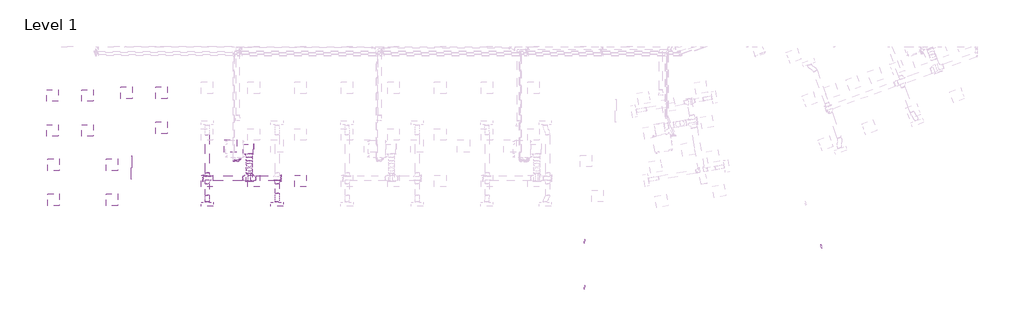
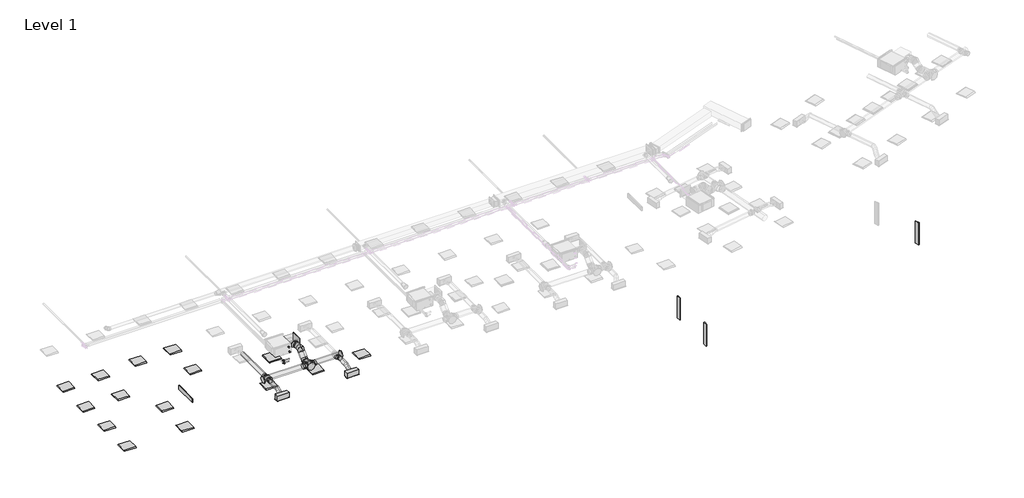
# One storey, part 1 of 30: 18 light fixtures, 12 duct fittings, 11 duct segments, 4 pipe fittings, 4 pipe segments, 3 air terminals.
"""IFC4 building model written with IfcOpenShell, lengths in millimetres."""

from ifc_helpers import new_model, si_unit, point, frame, frame_2d, origin, place, context, project, spatial, polyline, circle_curve, ellipse_curve, trimmed, segment, composite_curve, outline, extrude, transform, mapped, element, save
from ifc_brep_helpers import plane_surface, cylinder_surface, advanced_brep
from components import return_grille_rectangular_hosted_standard_7b12617c, supply_diffuser_with_plenum_linear_slot_hosted_8c379eed, dw144_rectangular_blank_end_standard_8fde7d16, dw144_round_blank_end_standard_f82b0856, dw144_round_blank_end_standard_9aa061e7, dw144_round_segmented_bend_slip_joint_standard_8b80c5ae, dw144_round_shoe_branch_slip_joint1_standard_2_15a2edd8, dw144_round_shoe_branch_slip_joint1_standard_2_559552f4, dw144_round_shoe_branch_slip_joint1_standard_2_7ba9e4ed, dw144_round_shoe_branch_slip_joint1_standard_2_67b64720, light_fixture_1c7c1157, light_fixture_b730b5ca, light_fixture_64c2163c, elbow_threaded_gmi_standard_b4aa7741, socket_reducing_threaded_gmi_standard_0a4076b8

model = new_model("IFC4")

# Units and contexts
model_context = context("Model", 3, world=origin())
ifc_project = project(units=[si_unit("LENGTHUNIT", "METRE", prefix="MILLI")], contexts=[model_context])

# Site, building, storey
site = spatial("IfcSite", under=ifc_project)
building = spatial("IfcBuilding", under=site)
storey = spatial("IfcBuildingStorey", under=building, Name="Level 1", Elevation=3900.0)

# Air terminals
placement = place(None, origin())
return_grille_rectangular_hosted_standard_shape = return_grille_rectangular_hosted_standard_7b12617c(model_context)
element("IfcAirTerminal", 1, ObjectType="Return Grille - Rectangular - Hosted : Standard", at=placement, inside=storey, context=model_context, shape_type="MappedRepresentation", body=[
    mapped(return_grille_rectangular_hosted_standard_shape, transform((10362.2000027, 3963.2000004, 6700.0), x_axis=(1.0, 0.0, 0.0), y_axis=(0.0, -1.0, 0.0), z_axis=(0.0, 0.0, -1.0))),
])
supply_diffuser_with_plenum_linear_slot_hosted_shape = supply_diffuser_with_plenum_linear_slot_hosted_8c379eed(model_context)
element("IfcAirTerminal", 2, ObjectType="Supply Diffuser with Plenum - Linear Slot - Hosted : 24\" x 8\"-200 In Inlet  4-Slot", at=placement, inside=storey, context=model_context, shape_type="MappedRepresentation", body=[
    mapped(supply_diffuser_with_plenum_linear_slot_hosted_shape, transform((9162.2000027, 963.2000004, 6700.0), x_axis=(1.0, 0.0, 0.0), y_axis=(0.0, -1.0, 0.0), z_axis=(0.0, 0.0, -1.0))),
])
element("IfcAirTerminal", 3, ObjectType="Supply Diffuser with Plenum - Linear Slot - Hosted : 24\" x 8\"-200 In Inlet  4-Slot", at=placement, inside=storey, context=model_context, shape_type="MappedRepresentation", body=[
    mapped(supply_diffuser_with_plenum_linear_slot_hosted_shape, transform((12762.2000027, 963.2000004, 6700.0), x_axis=(1.0, 0.0, 0.0), y_axis=(0.0, -1.0, 0.0), z_axis=(0.0, 0.0, -1.0))),
])

# Duct fittings
dw144_rectangular_blank_end_standard_shape = dw144_rectangular_blank_end_standard_8fde7d16(model_context)
element("IfcDuctFitting", 4, ObjectType="DW144 Rectangular Blank End : Standard", at=placement, inside=storey, context=model_context, shape_type="MappedRepresentation", body=[
    mapped(dw144_rectangular_blank_end_standard_shape, transform((11546.2561025, 3806.0000004, 7376.3911538), x_axis=(1.0, 0.0, 0.0), y_axis=(0.0, 1.0, 0.0), z_axis=(0.0, 0.0, 1.0))),
])
dw144_round_blank_end_standard_shape = dw144_round_blank_end_standard_f82b0856(model_context)
element("IfcDuctFitting", 5, ObjectType="DW144 Round Blank End : Standard", at=placement, inside=storey, context=model_context, shape_type="MappedRepresentation", body=[
    mapped(dw144_round_blank_end_standard_shape, transform((11331.4561025, 2142.9916128, 6972.2088531), x_axis=(0.0, -1.0, 0.0), y_axis=(1.0, 0.0, 0.0), z_axis=(0.0, 0.0, 1.0))),
])
dw144_round_blank_end_standard_2_shape = dw144_round_blank_end_standard_9aa061e7(model_context)
element("IfcDuctFitting", 6, ObjectType="DW144 Round Blank End : Standard", at=placement, inside=storey, context=model_context, shape_type="MappedRepresentation", body=[
    mapped(dw144_round_blank_end_standard_2_shape, transform((12961.4561025, 2306.5018192, 6972.2088531), x_axis=(1.0, 0.0, 0.0), y_axis=(0.0, 1.0, 0.0), z_axis=(0.0, 0.0, 1.0))),
])
element("IfcDuctFitting", 7, ObjectType="DW144 Round Blank End : Standard", at=placement, inside=storey, context=model_context, shape_type="MappedRepresentation", body=[
    mapped(dw144_round_blank_end_standard_2_shape, transform((8961.4561025, 2306.5018192, 6972.2088531), x_axis=(-1.0, 0.0, 0.0), y_axis=(0.0, -1.0, 0.0), z_axis=(0.0, 0.0, 1.0))),
])
dw144_round_segmented_bend_slip_joint_standard_shape = dw144_round_segmented_bend_slip_joint_standard_8b80c5ae(model_context)
element("IfcDuctFitting", 8, ObjectType="DW144 Round Segmented Bend - Slip Joint : Standard", at=placement, inside=storey, context=model_context, shape_type="MappedRepresentation", body=[
    mapped(dw144_round_segmented_bend_slip_joint_standard_shape, transform((11331.4561025, 2678.6338536, 6972.2088531), x_axis=(0.0, -0.7071067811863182, -0.7071067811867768), y_axis=(0.0, 0.7071067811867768, -0.7071067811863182), z_axis=(1.0, 0.0, 0.0))),
])
element("IfcDuctFitting", 9, ObjectType="DW144 Round Segmented Bend - Slip Joint : Standard", at=placement, inside=storey, context=model_context, shape_type="MappedRepresentation", body=[
    mapped(dw144_round_segmented_bend_slip_joint_standard_shape, transform((11331.4561025, 3076.0000004, 7369.575), x_axis=(0.0, -1.0, 0.0), y_axis=(0.0, 0.0, 1.0), z_axis=(-1.0, 0.0, 0.0))),
])
dw144_round_shoe_branch_slip_joint1_standard_2_shape = dw144_round_shoe_branch_slip_joint1_standard_2_15a2edd8(model_context)
element("IfcDuctFitting", 10, ObjectType="DW144 Round Shoe Branch - Slip Joint1 : Standard 2", at=placement, inside=storey, context=model_context, shape_type="MappedRepresentation", body=[
    mapped(dw144_round_shoe_branch_slip_joint1_standard_2_shape, transform((9173.9000022, 2181.5018192, 6972.2088531), x_axis=(0.0, -1.0, 0.0), y_axis=(-1.0, 0.0, 0.0), z_axis=(0.0, 0.0, -1.0))),
])
element("IfcDuctFitting", 11, ObjectType="DW144 Round Shoe Branch - Slip Joint1 : Standard 2", at=placement, inside=storey, context=model_context, shape_type="MappedRepresentation", body=[
    mapped(dw144_round_shoe_branch_slip_joint1_standard_2_shape, transform((9173.9000022, 2431.5018192, 6972.2088531), x_axis=(0.0, 1.0, 0.0), y_axis=(-1.0, 0.0, 0.0), z_axis=(0.0, 0.0, 1.0))),
])
dw144_round_shoe_branch_slip_joint1_standard_2_2_shape = dw144_round_shoe_branch_slip_joint1_standard_2_559552f4(model_context)
element("IfcDuctFitting", 12, ObjectType="DW144 Round Shoe Branch - Slip Joint1 : Standard 2", at=placement, inside=storey, context=model_context, shape_type="MappedRepresentation", body=[
    mapped(dw144_round_shoe_branch_slip_joint1_standard_2_2_shape, transform((12773.9000022, 2181.5018192, 6972.2088531), x_axis=(0.0, -1.0, 0.0), y_axis=(-1.0, 0.0, 0.0), z_axis=(0.0, 0.0, -1.0))),
])
dw144_round_shoe_branch_slip_joint1_standard_2_3_shape = dw144_round_shoe_branch_slip_joint1_standard_2_7ba9e4ed(model_context)
element("IfcDuctFitting", 13, ObjectType="DW144 Round Shoe Branch - Slip Joint1 : Standard 2", at=placement, inside=storey, context=model_context, shape_type="MappedRepresentation", body=[
    mapped(dw144_round_shoe_branch_slip_joint1_standard_2_3_shape, transform((11331.4561025, 3556.0000004, 7369.575), x_axis=(0.0, -1.0, 0.0), y_axis=(-1.0, 0.0, 0.0), z_axis=(0.0, 0.0, -1.0))),
])
dw144_round_shoe_branch_slip_joint1_standard_2_4_shape = dw144_round_shoe_branch_slip_joint1_standard_2_67b64720(model_context)
element("IfcDuctFitting", 14, ObjectType="DW144 Round Shoe Branch - Slip Joint1 : Standard 2", at=placement, inside=storey, context=model_context, shape_type="MappedRepresentation", body=[
    mapped(dw144_round_shoe_branch_slip_joint1_standard_2_4_shape, transform((11481.4561025, 2306.5018192, 6972.2088531), x_axis=(1.0, 0.0, 0.0), y_axis=(0.0, -1.0, 0.0), z_axis=(0.0, 0.0, -1.0))),
])
element("IfcDuctFitting", 15, ObjectType="DW144 Round Shoe Branch - Slip Joint1 : Standard 2", at=placement, inside=storey, context=model_context, shape_type="MappedRepresentation", body=[
    mapped(dw144_round_shoe_branch_slip_joint1_standard_2_4_shape, transform((11181.4561025, 2306.5018192, 6972.2088531), x_axis=(-1.0, 0.0, 0.0), y_axis=(0.0, -1.0, 0.0), z_axis=(0.0, 0.0, 1.0))),
])

# Duct segments
element("IfcDuctSegment", 16, ObjectType="DW144 Flanged Med Radius Bend / Shoe Branch", at=placement, inside=storey, context=model_context, shape_type="SweptSolid", body=[
    extrude(outline(polyline([(11026.6561025, 3556.0000004), (11026.6561025, 4056.0000004), (11546.2561025, 4056.0000004), (11546.2561025, 3556.0000004), (11026.6561025, 3556.0000004)])), frame((0.0, 0.0, 7201.3911538), z_axis=(0.0, 0.0, 1.0), x_axis=(1.0, 0.0, 0.0)), (0.0, 0.0, 1.0), 350.0),
])
element("IfcDuctSegment", 17, ObjectType="DW144 Segmented Bend / Shoe Branch", at=placement, inside=storey, context=model_context, shape_type="SweptSolid", body=[
    extrude(outline(composite_curve([segment(trimmed(circle_curve(frame_2d((7369.575, 11331.4561025)), 150.0), [point((7369.575, 11181.4561025))], [point((7219.575, 11331.4561025))], False, "CARTESIAN"), True, "CONTINUOUS"), segment(trimmed(circle_curve(frame_2d((7369.575, 11331.4561025)), 150.0), [point((7219.575, 11331.4561025))], [point((7369.575, 11481.4561025))], False, "CARTESIAN"), True, "CONTINUOUS"), segment(trimmed(circle_curve(frame_2d((7369.575, 11331.4561025)), 150.0), [point((7369.575, 11481.4561025))], [point((7519.575, 11331.4561025))], False, "CARTESIAN"), True, "CONTINUOUS"), segment(trimmed(circle_curve(frame_2d((7369.575, 11331.4561025)), 150.0), [point((7519.575, 11331.4561025))], [point((7369.575, 11181.4561025))], False, "CARTESIAN"), True, "CONTINUOUS")], self_intersect=False)), frame((0.0, 3200.2640691, 0.0), z_axis=(0.0, 1.0, 0.0), x_axis=(0.0, 0.0, 1.0)), (0.0, 0.0, 1.0), 180.7359313),
])
element("IfcDuctSegment", 18, ObjectType="DW144 Segmented Bend / Shoe Branch", at=placement, inside=storey, context=model_context, shape_type="SweptSolid", body=[
    extrude(outline(composite_curve([segment(trimmed(circle_curve(frame_2d((6972.2088531, 11331.4561025)), 150.0), [point((6972.2088531, 11181.4561025))], [point((6822.2088531, 11331.4561025))], False, "CARTESIAN"), True, "CONTINUOUS"), segment(trimmed(circle_curve(frame_2d((6972.2088531, 11331.4561025)), 150.0), [point((6822.2088531, 11331.4561025))], [point((6972.2088531, 11481.4561025))], False, "CARTESIAN"), True, "CONTINUOUS"), segment(trimmed(circle_curve(frame_2d((6972.2088531, 11331.4561025)), 150.0), [point((6972.2088531, 11481.4561025))], [point((7122.2088531, 11331.4561025))], False, "CARTESIAN"), True, "CONTINUOUS"), segment(trimmed(circle_curve(frame_2d((6972.2088531, 11331.4561025)), 150.0), [point((7122.2088531, 11331.4561025))], [point((6972.2088531, 11181.4561025))], False, "CARTESIAN"), True, "CONTINUOUS")], self_intersect=False)), frame((0.0, 2142.9916128, 0.0), z_axis=(0.0, 1.0, 0.0), x_axis=(0.0, 0.0, 1.0)), (0.0, 0.0, 1.0), 411.3781721),
])
element("IfcDuctSegment", 19, ObjectType="DW144 Segmented Bend / Shoe Branch", at=placement, inside=storey, context=model_context, shape_type="SweptSolid", body=[
    extrude(outline(composite_curve([segment(trimmed(circle_curve(frame_2d((0.0, -150.0)), 150.0), [point((-150.0, -150.0))], [point((0.0, 0.0))], False, "CARTESIAN"), True, "CONTINUOUS"), segment(trimmed(circle_curve(frame_2d((0.0, -150.0)), 150.0), [point((0.0, 0.0))], [point((150.0, -150.0))], False, "CARTESIAN"), True, "CONTINUOUS"), segment(trimmed(circle_curve(frame_2d((0.0, -150.0)), 150.0), [point((150.0, -150.0))], [point((0.0, -300.0))], False, "CARTESIAN"), True, "CONTINUOUS"), segment(trimmed(circle_curve(frame_2d((0.0, -150.0)), 150.0), [point((0.0, -300.0))], [point((-150.0, -150.0))], False, "CARTESIAN"), True, "CONTINUOUS")], self_intersect=False)), frame((11331.4561025, 2872.5678364, 6954.0108016), z_axis=(0.0, 0.7071067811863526, 0.7071067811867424), x_axis=(1.0, 0.0, 0.0)), (0.0, 0.0, 1.0), 313.4324567),
])
element("IfcDuctSegment", 20, ObjectType="DW144 Segmented Bend / Shoe Branch", at=placement, inside=storey, context=model_context, shape_type="SweptSolid", body=[
    extrude(outline(composite_curve([segment(trimmed(circle_curve(frame_2d((2306.5018192, 6972.2088531)), 125.0), [point((2181.5018192, 6972.2088531))], [point((2306.5018192, 7097.2088531))], False, "CARTESIAN"), True, "CONTINUOUS"), segment(trimmed(circle_curve(frame_2d((2306.5018192, 6972.2088531)), 125.0), [point((2306.5018192, 7097.2088531))], [point((2431.5018192, 6972.2088531))], False, "CARTESIAN"), True, "CONTINUOUS"), segment(trimmed(circle_curve(frame_2d((2306.5018192, 6972.2088531)), 125.0), [point((2431.5018192, 6972.2088531))], [point((2306.5018192, 6847.2088531))], False, "CARTESIAN"), True, "CONTINUOUS"), segment(trimmed(circle_curve(frame_2d((2306.5018192, 6972.2088531)), 125.0), [point((2306.5018192, 6847.2088531))], [point((2181.5018192, 6972.2088531))], False, "CARTESIAN"), True, "CONTINUOUS")], self_intersect=False)), frame((11656.4561025, 0.0, 0.0), z_axis=(1.0, 0.0, 0.0), x_axis=(0.0, 1.0, 0.0)), (0.0, 0.0, 1.0), 1305.0),
])
element("IfcDuctSegment", 21, ObjectType="DW144 Segmented Bend / Shoe Branch", at=placement, inside=storey, context=model_context, shape_type="SweptSolid", body=[
    extrude(outline(composite_curve([segment(trimmed(circle_curve(frame_2d((2306.5018192, 6972.2088531)), 125.0), [point((2431.5018192, 6972.2088531))], [point((2306.5018192, 6847.2088531))], False, "CARTESIAN"), True, "CONTINUOUS"), segment(trimmed(circle_curve(frame_2d((2306.5018192, 6972.2088531)), 125.0), [point((2306.5018192, 6847.2088531))], [point((2181.5018192, 6972.2088531))], False, "CARTESIAN"), True, "CONTINUOUS"), segment(trimmed(circle_curve(frame_2d((2306.5018192, 6972.2088531)), 125.0), [point((2181.5018192, 6972.2088531))], [point((2306.5018192, 7097.2088531))], False, "CARTESIAN"), True, "CONTINUOUS"), segment(trimmed(circle_curve(frame_2d((2306.5018192, 6972.2088531)), 125.0), [point((2306.5018192, 7097.2088531))], [point((2431.5018192, 6972.2088531))], False, "CARTESIAN"), True, "CONTINUOUS")], self_intersect=False)), frame((8961.4561025, 0.0, 0.0), z_axis=(1.0, 0.0, 0.0), x_axis=(0.0, 1.0, 0.0)), (0.0, 0.0, 1.0), 2045.0),
])
element("IfcDuctSegment", 22, ObjectType="DW144 Segmented Bend / Shoe Branch", at=placement, inside=storey, context=model_context, shape_type="SweptSolid", body=[
    extrude(outline(composite_curve([segment(trimmed(circle_curve(frame_2d((6972.2088531, 12773.9000022)), 100.0), [point((6972.2088531, 12673.9000022))], [point((6872.2088531, 12773.9000022))], False, "CARTESIAN"), True, "CONTINUOUS"), segment(trimmed(circle_curve(frame_2d((6972.2088531, 12773.9000022)), 100.0), [point((6872.2088531, 12773.9000022))], [point((6972.2088531, 12873.9000022))], False, "CARTESIAN"), True, "CONTINUOUS"), segment(trimmed(circle_curve(frame_2d((6972.2088531, 12773.9000022)), 100.0), [point((6972.2088531, 12873.9000022))], [point((7072.2088531, 12773.9000022))], False, "CARTESIAN"), True, "CONTINUOUS"), segment(trimmed(circle_curve(frame_2d((6972.2088531, 12773.9000022)), 100.0), [point((7072.2088531, 12773.9000022))], [point((6972.2088531, 12673.9000022))], False, "CARTESIAN"), True, "CONTINUOUS")], self_intersect=False)), frame((0.0, 1521.5018192, 0.0), z_axis=(0.0, 1.0, 0.0), x_axis=(0.0, 0.0, 1.0)), (0.0, 0.0, 1.0), 510.0),
])
element("IfcDuctSegment", 23, ObjectType="DW144 Segmented Bend / Shoe Branch", at=placement, inside=storey, context=model_context, shape_type="SweptSolid", body=[
    extrude(outline(composite_curve([segment(trimmed(circle_curve(frame_2d((6972.2088531, 9173.9000022)), 100.0), [point((6972.2088531, 9273.9000022))], [point((7072.2088531, 9173.9000022))], False, "CARTESIAN"), True, "CONTINUOUS"), segment(trimmed(circle_curve(frame_2d((6972.2088531, 9173.9000022)), 100.0), [point((7072.2088531, 9173.9000022))], [point((6972.2088531, 9073.9000022))], False, "CARTESIAN"), True, "CONTINUOUS"), segment(trimmed(circle_curve(frame_2d((6972.2088531, 9173.9000022)), 100.0), [point((6972.2088531, 9073.9000022))], [point((6872.2088531, 9173.9000022))], False, "CARTESIAN"), True, "CONTINUOUS"), segment(trimmed(circle_curve(frame_2d((6972.2088531, 9173.9000022)), 100.0), [point((6872.2088531, 9173.9000022))], [point((6972.2088531, 9273.9000022))], False, "CARTESIAN"), True, "CONTINUOUS")], self_intersect=False)), frame((0.0, 1441.5018192, 0.0), z_axis=(0.0, 1.0, 0.0), x_axis=(0.0, 0.0, 1.0)), (0.0, 0.0, 1.0), 590.0),
])
element("IfcDuctSegment", 24, ObjectType="DW144 Segmented Bend / Shoe Branch", at=placement, inside=storey, context=model_context, shape_type="SweptSolid", body=[
    extrude(outline(composite_curve([segment(trimmed(circle_curve(frame_2d((6972.2088531, 9173.9000022)), 100.0), [point((6972.2088531, 9273.9000022))], [point((7072.2088531, 9173.9000022))], False, "CARTESIAN"), True, "CONTINUOUS"), segment(trimmed(circle_curve(frame_2d((6972.2088531, 9173.9000022)), 100.0), [point((7072.2088531, 9173.9000022))], [point((6972.2088531, 9073.9000022))], False, "CARTESIAN"), True, "CONTINUOUS"), segment(trimmed(circle_curve(frame_2d((6972.2088531, 9173.9000022)), 100.0), [point((6972.2088531, 9073.9000022))], [point((6872.2088531, 9173.9000022))], False, "CARTESIAN"), True, "CONTINUOUS"), segment(trimmed(circle_curve(frame_2d((6972.2088531, 9173.9000022)), 100.0), [point((6872.2088531, 9173.9000022))], [point((6972.2088531, 9273.9000022))], False, "CARTESIAN"), True, "CONTINUOUS")], self_intersect=False)), frame((0.0, 2581.5018192, 0.0), z_axis=(0.0, 1.0, 0.0), x_axis=(0.0, 0.0, 1.0)), (0.0, 0.0, 1.0), 1950.0),
])
element("IfcDuctSegment", 25, ObjectType="Flex - Round", at=placement, inside=storey, context=model_context, shape_type="AdvancedBrep", body=[
    advanced_brep(
    [(9273.9000022, 1441.5018192, 6972.2088531), (9173.9000022, 1441.5018192, 6872.2088531), (9073.9000022, 1441.5018192, 6972.2088531), (9173.9000022, 1441.5018192, 7072.2088531), (9273.9000022, 1419.9886644, 6972.2088531), (9173.9000022, 1434.4041273, 6872.2088531), (9073.9000022, 1422.5932881, 6972.2088531), (9173.9000022, 1408.1778252, 7072.2088531), (9262.2000027, 1092.1000004, 6854.4), (9162.2000027, 1092.1000004, 6954.4), (9062.2000027, 1092.1000004, 6854.4), (9162.2000027, 1092.1000004, 6754.4), (9272.0154345, 1348.8904029, 6953.2328893), (9172.6402079, 1386.8764181, 6859.5238159), (9072.1283201, 1355.7538157, 6954.3695504), (9171.5035467, 1317.7678004, 7048.0786237), (9267.9552415, 1262.5544078, 6912.3502664), (9169.0041626, 1309.5595036, 6822.9119919), (9068.1447633, 1271.0474118, 6914.2585867), (9167.0958423, 1224.0423161, 7003.6968612), (9263.9716847, 1177.8480039, 6872.2393027), (9164.5964582, 1215.8340192, 6778.5302294), (9064.0845704, 1184.7114168, 6873.3759639), (9163.459797, 1146.7254015, 6967.0850372), (9262.2000027, 1111.0085316, 6854.4), (9162.2000027, 1125.4239944, 6754.4), (9062.2000027, 1113.6131552, 6854.4), (9162.2000027, 1099.1976924, 6954.4)],
    [
        (0, 1, circle_curve(frame((9173.9000022, 1441.5018192, 6972.2088531), z_axis=(0.0, 1.0, 0.0), x_axis=(1.0, 0.0, 0.0)), 100.0)),
        (1, 2, circle_curve(frame((9173.9000022, 1441.5018192, 6972.2088531), z_axis=(0.0, 1.0, 0.0), x_axis=(1.0, 0.0, 0.0)), 100.0)),
        (2, 3, circle_curve(frame((9173.9000022, 1441.5018192, 6972.2088531), z_axis=(0.0, 1.0, 0.0), x_axis=(1.0, 0.0, 0.0)), 100.0)),
        (3, 0, circle_curve(frame((9173.9000022, 1441.5018192, 6972.2088531), z_axis=(0.0, 1.0, 0.0), x_axis=(1.0, 0.0, 0.0)), 100.0)),
        (0, 4),
        (4, 5, ellipse_curve(frame((9173.9000022, 1421.2909763, 6972.2088531), z_axis=(0.012911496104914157, 0.9914289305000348, 0.13000757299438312), x_axis=(-0.0979801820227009, 0.13064714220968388, -0.9865754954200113)), 100.8645168, 100.0)),
        (5, 1),
        (5, 6, ellipse_curve(frame((9173.9000022, 1421.2909763, 6972.2088531), z_axis=(0.012911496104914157, 0.9914289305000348, 0.13000757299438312), x_axis=(-0.0979801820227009, 0.13064714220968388, -0.9865754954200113)), 100.8645168, 100.0)),
        (6, 2),
        (6, 7, ellipse_curve(frame((9173.9000022, 1421.2909763, 6972.2088531), z_axis=(0.012911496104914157, 0.9914289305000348, 0.13000757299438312), x_axis=(-0.0979801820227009, 0.13064714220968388, -0.9865754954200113)), 100.8645168, 100.0)),
        (7, 3),
        (7, 4, ellipse_curve(frame((9173.9000022, 1421.2909763, 6972.2088531), z_axis=(0.012911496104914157, 0.9914289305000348, 0.13000757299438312), x_axis=(-0.0979801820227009, 0.13064714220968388, -0.9865754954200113)), 100.8645168, 100.0)),
        (8, 9, circle_curve(frame((9162.2000027, 1092.1000004, 6854.4), z_axis=(0.0, -1.0, 0.0), x_axis=(1.0, 0.0, 0.0)), 100.0)),
        (9, 10, circle_curve(frame((9162.2000027, 1092.1000004, 6854.4), z_axis=(0.0, -1.0, 0.0), x_axis=(1.0, 0.0, 0.0)), 100.0)),
        (10, 11, circle_curve(frame((9162.2000027, 1092.1000004, 6854.4), z_axis=(0.0, -1.0, 0.0), x_axis=(1.0, 0.0, 0.0)), 100.0)),
        (11, 8, circle_curve(frame((9162.2000027, 1092.1000004, 6854.4), z_axis=(0.0, -1.0, 0.0), x_axis=(1.0, 0.0, 0.0)), 100.0)),
        (4, 12),
        (12, 13, ellipse_curve(frame((9172.0718773, 1352.3221093, 6953.8012198), z_axis=(0.034174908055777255, 0.9383065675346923, 0.3441116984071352), x_axis=(-0.09273024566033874, 0.3458045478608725, -0.9337131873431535)), 100.4159667, 100.0)),
        (13, 5),
        (13, 14, ellipse_curve(frame((9172.0718773, 1352.3221093, 6953.8012198), z_axis=(0.034174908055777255, 0.9383065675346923, 0.3441116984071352), x_axis=(-0.09273024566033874, 0.3458045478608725, -0.9337131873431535)), 100.4159667, 100.0)),
        (14, 6),
        (14, 15, ellipse_curve(frame((9172.0718773, 1352.3221093, 6953.8012198), z_axis=(0.034174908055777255, 0.9383065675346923, 0.3441116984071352), x_axis=(-0.09273024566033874, 0.3458045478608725, -0.9337131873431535)), 100.4159667, 100.0)),
        (15, 7),
        (15, 12, ellipse_curve(frame((9172.0718773, 1352.3221093, 6953.8012198), z_axis=(0.034174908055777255, 0.9383065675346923, 0.3441116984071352), x_axis=(-0.09273024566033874, 0.3458045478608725, -0.9337131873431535)), 100.4159667, 100.0)),
        (12, 16),
        (16, 17, circle_curve(frame((9168.0500024, 1266.8009098, 6913.3044266), z_axis=(0.04246501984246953, 0.9029767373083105, 0.4275859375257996), x_axis=(0.9990523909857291, -0.042465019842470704, -0.009541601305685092)), 100.0)),
        (17, 13),
        (17, 18, circle_curve(frame((9168.0500024, 1266.8009098, 6913.3044266), z_axis=(0.04246501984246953, 0.9029767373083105, 0.4275859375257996), x_axis=(0.9990523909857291, -0.042465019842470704, -0.009541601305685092)), 100.0)),
        (18, 14),
        (18, 19, circle_curve(frame((9168.0500024, 1266.8009098, 6913.3044266), z_axis=(0.04246501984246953, 0.9029767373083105, 0.4275859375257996), x_axis=(0.9990523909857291, -0.042465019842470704, -0.009541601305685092)), 100.0)),
        (19, 15),
        (19, 16, circle_curve(frame((9168.0500024, 1266.8009098, 6913.3044266), z_axis=(0.04246501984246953, 0.9029767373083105, 0.4275859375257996), x_axis=(0.9990523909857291, -0.042465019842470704, -0.009541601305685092)), 100.0)),
        (16, 20),
        (20, 21, ellipse_curve(frame((9164.0281276, 1181.2797104, 6872.8076333), z_axis=(0.03417490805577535, 0.9383065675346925, 0.3441116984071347), x_axis=(0.0927302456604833, -0.3458045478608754, 0.9337131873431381)), 100.4159667, 100.0)),
        (21, 17),
        (21, 22, ellipse_curve(frame((9164.0281276, 1181.2797104, 6872.8076333), z_axis=(0.03417490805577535, 0.9383065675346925, 0.3441116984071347), x_axis=(0.0927302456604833, -0.3458045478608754, 0.9337131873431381)), 100.4159667, 100.0)),
        (22, 18),
        (22, 23, ellipse_curve(frame((9164.0281276, 1181.2797104, 6872.8076333), z_axis=(0.03417490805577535, 0.9383065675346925, 0.3441116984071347), x_axis=(0.0927302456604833, -0.3458045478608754, 0.9337131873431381)), 100.4159667, 100.0)),
        (23, 19),
        (23, 20, ellipse_curve(frame((9164.0281276, 1181.2797104, 6872.8076333), z_axis=(0.03417490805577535, 0.9383065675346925, 0.3441116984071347), x_axis=(0.0927302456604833, -0.3458045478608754, 0.9337131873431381)), 100.4159667, 100.0)),
        (20, 24),
        (24, 25, ellipse_curve(frame((9162.2000027, 1112.3108434, 6854.4), z_axis=(0.012911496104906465, 0.9914289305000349, 0.1300075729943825), x_axis=(0.09798018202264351, -0.13064714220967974, 0.9865754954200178)), 100.8645168, 100.0)),
        (25, 21),
        (25, 26, ellipse_curve(frame((9162.2000027, 1112.3108434, 6854.4), z_axis=(0.012911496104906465, 0.9914289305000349, 0.1300075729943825), x_axis=(0.09798018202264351, -0.13064714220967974, 0.9865754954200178)), 100.8645168, 100.0)),
        (26, 22),
        (26, 27, ellipse_curve(frame((9162.2000027, 1112.3108434, 6854.4), z_axis=(0.012911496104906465, 0.9914289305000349, 0.1300075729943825), x_axis=(0.09798018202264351, -0.13064714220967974, 0.9865754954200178)), 100.8645168, 100.0)),
        (27, 23),
        (27, 24, ellipse_curve(frame((9162.2000027, 1112.3108434, 6854.4), z_axis=(0.012911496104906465, 0.9914289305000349, 0.1300075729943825), x_axis=(0.09798018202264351, -0.13064714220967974, 0.9865754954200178)), 100.8645168, 100.0)),
        (24, 8),
        (11, 25),
        (10, 26),
        (9, 27),
    ],
    [
        plane_surface(frame((9073.9000022, 1441.5018192, 6972.2088531), z_axis=(0.0, 1.0, 0.0), x_axis=(0.0, 0.0, -1.0))),
        cylinder_surface(frame((9173.9000022, 1441.5018192, 6972.2088531), z_axis=(0.0, 1.0, 0.0), x_axis=(1.0, 0.0, 0.0)), 100.0),
        plane_surface(frame((9062.2000027, 1092.1000004, 6854.4), z_axis=(0.0, -1.0, 0.0), x_axis=(0.0, 0.0, -1.0))),
        cylinder_surface(frame((9173.9000022, 1421.2909763, 6972.2088531), z_axis=(0.02560166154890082, 0.965862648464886, 0.25778653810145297), x_axis=(0.9996665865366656, -0.02560166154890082, -0.003357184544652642)), 100.0),
        cylinder_surface(frame((9172.0718773, 1352.3221093, 6953.8012198), z_axis=(0.04246501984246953, 0.9029767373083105, 0.4275859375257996), x_axis=(0.9990523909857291, -0.042465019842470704, -0.009541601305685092)), 100.0),
        cylinder_surface(frame((9168.0500024, 1266.8009098, 6913.3044266), z_axis=(0.04246501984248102, 0.90297673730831, 0.42758593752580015), x_axis=(0.9990523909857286, -0.04246501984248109, -0.009541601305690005)), 100.0),
        cylinder_surface(frame((9164.0281276, 1181.2797104, 6872.8076333), z_axis=(0.025601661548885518, 0.9658626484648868, 0.2577865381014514), x_axis=(0.999666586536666, -0.02560166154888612, -0.003357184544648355)), 100.0),
        cylinder_surface(frame((9162.2000027, 1112.3108434, 6854.4), z_axis=(0.0, 1.0, 0.0), x_axis=(1.0, 0.0, 0.0)), 100.0),
    ],
    [
        (0, [[1, 2, 3, 4]]),
        (1, [[-1, 5, 6, 7]]),
        (1, [[-2, -7, 8, 9]]),
        (1, [[-3, -9, 10, 11]]),
        (1, [[-4, -11, 12, -5]]),
        (2, [[13, 14, 15, 16]]),
        (3, [[-6, 17, 18, 19]]),
        (3, [[-8, -19, 20, 21]]),
        (3, [[-10, -21, 22, 23]]),
        (3, [[-12, -23, 24, -17]]),
        (4, [[-18, 25, 26, 27]]),
        (4, [[-20, -27, 28, 29]]),
        (4, [[-22, -29, 30, 31]]),
        (4, [[-24, -31, 32, -25]]),
        (5, [[-26, 33, 34, 35]]),
        (5, [[-28, -35, 36, 37]]),
        (5, [[-30, -37, 38, 39]]),
        (5, [[-32, -39, 40, -33]]),
        (6, [[-34, 41, 42, 43]]),
        (6, [[-36, -43, 44, 45]]),
        (6, [[-38, -45, 46, 47]]),
        (6, [[-40, -47, 48, -41]]),
        (7, [[-42, 49, -16, 50]]),
        (7, [[-44, -50, -15, 51]]),
        (7, [[-46, -51, -14, 52]]),
        (7, [[-48, -52, -13, -49]]),
    ],
),
])
element("IfcDuctSegment", 26, ObjectType="Flex - Round", at=placement, inside=storey, context=model_context, shape_type="AdvancedBrep", body=[
    advanced_brep(
    [(12873.9000022, 1521.5018192, 6972.2088531), (12773.9000022, 1521.5018192, 6872.2088531), (12673.9000022, 1521.5018192, 6972.2088531), (12773.9000022, 1521.5018192, 7072.2088531), (12873.9000022, 1503.8483968, 6972.2088531), (12773.9000022, 1514.716186, 6872.2088531), (12673.9000022, 1505.8120174, 6972.2088531), (12773.9000022, 1494.9442282, 7072.2088531), (12862.2000027, 1092.1000004, 6854.4), (12762.2000027, 1092.1000004, 6954.4), (12662.2000027, 1092.1000004, 6854.4), (12762.2000027, 1092.1000004, 6754.4), (12872.0365094, 1409.8841765, 6953.4450953), (12772.4280018, 1440.492465, 6857.3870846), (12672.1072452, 1415.4145623, 6954.1573443), (12771.7157528, 1384.8062738, 7050.2153551), (12867.9849454, 1303.2543522, 6912.6493581), (12768.7050709, 1342.5116705, 6819.9003985), (12668.1150595, 1310.3474674, 6913.9594951), (12767.3949339, 1271.0901491, 7006.7084546), (12863.9927597, 1198.1872573, 6872.4515088), (12764.3842521, 1228.7955458, 6776.3934981), (12664.0634955, 1203.7176431, 6873.1637578), (12763.6720031, 1173.1093547, 6969.2217685), (12862.2000027, 1107.7898022, 6854.4), (12762.2000027, 1118.6575914, 6754.4), (12662.2000027, 1109.7534229, 6854.4), (12762.2000027, 1098.8856336, 6954.4)],
    [
        (0, 1, circle_curve(frame((12773.9000022, 1521.5018192, 6972.2088531), z_axis=(0.0, 1.0, 0.0), x_axis=(1.0, 0.0, 0.0)), 100.0)),
        (1, 2, circle_curve(frame((12773.9000022, 1521.5018192, 6972.2088531), z_axis=(0.0, 1.0, 0.0), x_axis=(1.0, 0.0, 0.0)), 100.0)),
        (2, 3, circle_curve(frame((12773.9000022, 1521.5018192, 6972.2088531), z_axis=(0.0, 1.0, 0.0), x_axis=(1.0, 0.0, 0.0)), 100.0)),
        (3, 0, circle_curve(frame((12773.9000022, 1521.5018192, 6972.2088531), z_axis=(0.0, 1.0, 0.0), x_axis=(1.0, 0.0, 0.0)), 100.0)),
        (0, 4),
        (4, 5, ellipse_curve(frame((12773.9000022, 1504.8302071, 6972.2088531), z_axis=(0.00977000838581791, 0.9951014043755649, 0.09837551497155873), x_axis=(-0.09834312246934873, 0.09885947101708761, -0.990229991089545)), 100.492271, 100.0)),
        (5, 1),
        (5, 6, ellipse_curve(frame((12773.9000022, 1504.8302071, 6972.2088531), z_axis=(0.00977000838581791, 0.9951014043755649, 0.09837551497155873), x_axis=(-0.09834312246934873, 0.09885947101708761, -0.990229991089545)), 100.492271, 100.0)),
        (6, 2),
        (6, 7, ellipse_curve(frame((12773.9000022, 1504.8302071, 6972.2088531), z_axis=(0.00977000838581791, 0.9951014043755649, 0.09837551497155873), x_axis=(-0.09834312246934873, 0.09885947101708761, -0.990229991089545)), 100.492271, 100.0)),
        (7, 3),
        (7, 4, ellipse_curve(frame((12773.9000022, 1504.8302071, 6972.2088531), z_axis=(0.00977000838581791, 0.9951014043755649, 0.09837551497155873), x_axis=(-0.09834312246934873, 0.09885947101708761, -0.990229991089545)), 100.492271, 100.0)),
        (8, 9, circle_curve(frame((12762.2000027, 1092.1000004, 6854.4), z_axis=(0.0, -1.0, 0.0), x_axis=(1.0, 0.0, 0.0)), 100.0)),
        (9, 10, circle_curve(frame((12762.2000027, 1092.1000004, 6854.4), z_axis=(0.0, -1.0, 0.0), x_axis=(1.0, 0.0, 0.0)), 100.0)),
        (10, 11, circle_curve(frame((12762.2000027, 1092.1000004, 6854.4), z_axis=(0.0, -1.0, 0.0), x_axis=(1.0, 0.0, 0.0)), 100.0)),
        (11, 8, circle_curve(frame((12762.2000027, 1092.1000004, 6854.4), z_axis=(0.0, -1.0, 0.0), x_axis=(1.0, 0.0, 0.0)), 100.0)),
        (4, 12),
        (12, 13, ellipse_curve(frame((12772.0718773, 1412.6493694, 6953.8012198), z_axis=(0.027553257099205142, 0.9603485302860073, 0.2774374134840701), x_axis=(-0.09490859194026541, 0.2788022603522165, -0.9556472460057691)), 100.358114, 100.0)),
        (13, 5),
        (13, 14, ellipse_curve(frame((12772.0718773, 1412.6493694, 6953.8012198), z_axis=(0.027553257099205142, 0.9603485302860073, 0.2774374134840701), x_axis=(-0.09490859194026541, 0.2788022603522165, -0.9556472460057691)), 100.358114, 100.0)),
        (14, 6),
        (14, 15, ellipse_curve(frame((12772.0718773, 1412.6493694, 6953.8012198), z_axis=(0.027553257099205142, 0.9603485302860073, 0.2774374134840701), x_axis=(-0.09490859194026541, 0.2788022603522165, -0.9556472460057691)), 100.358114, 100.0)),
        (15, 7),
        (15, 12, ellipse_curve(frame((12772.0718773, 1412.6493694, 6953.8012198), z_axis=(0.027553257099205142, 0.9603485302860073, 0.2774374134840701), x_axis=(-0.09490859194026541, 0.2788022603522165, -0.9556472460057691)), 100.358114, 100.0)),
        (12, 16),
        (16, 17, circle_curve(frame((12768.0500024, 1306.8009098, 6913.3044266), z_axis=(0.03546557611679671, 0.933389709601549, 0.35710760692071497), x_axis=(0.9993494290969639, -0.03546557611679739, -0.006550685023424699)), 100.0)),
        (17, 13),
        (17, 18, circle_curve(frame((12768.0500024, 1306.8009098, 6913.3044266), z_axis=(0.03546557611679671, 0.933389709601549, 0.35710760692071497), x_axis=(0.9993494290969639, -0.03546557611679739, -0.006550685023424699)), 100.0)),
        (18, 14),
        (18, 19, circle_curve(frame((12768.0500024, 1306.8009098, 6913.3044266), z_axis=(0.03546557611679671, 0.933389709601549, 0.35710760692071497), x_axis=(0.9993494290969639, -0.03546557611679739, -0.006550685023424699)), 100.0)),
        (19, 15),
        (19, 16, circle_curve(frame((12768.0500024, 1306.8009098, 6913.3044266), z_axis=(0.03546557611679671, 0.933389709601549, 0.35710760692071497), x_axis=(0.9993494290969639, -0.03546557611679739, -0.006550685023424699)), 100.0)),
        (16, 20),
        (20, 21, ellipse_curve(frame((12764.0281276, 1200.9524502, 6872.8076333), z_axis=(0.02755325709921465, 0.9603485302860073, 0.27743741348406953), x_axis=(0.09490859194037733, -0.2788022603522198, 0.955647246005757)), 100.358114, 100.0)),
        (21, 17),
        (21, 22, ellipse_curve(frame((12764.0281276, 1200.9524502, 6872.8076333), z_axis=(0.02755325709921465, 0.9603485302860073, 0.27743741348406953), x_axis=(0.09490859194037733, -0.2788022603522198, 0.955647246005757)), 100.358114, 100.0)),
        (22, 18),
        (22, 23, ellipse_curve(frame((12764.0281276, 1200.9524502, 6872.8076333), z_axis=(0.02755325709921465, 0.9603485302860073, 0.27743741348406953), x_axis=(0.09490859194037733, -0.2788022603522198, 0.955647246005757)), 100.358114, 100.0)),
        (23, 19),
        (23, 20, ellipse_curve(frame((12764.0281276, 1200.9524502, 6872.8076333), z_axis=(0.02755325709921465, 0.9603485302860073, 0.27743741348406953), x_axis=(0.09490859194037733, -0.2788022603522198, 0.955647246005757)), 100.358114, 100.0)),
        (20, 24),
        (24, 25, ellipse_curve(frame((12762.2000027, 1108.7716125, 6854.4), z_axis=(0.009770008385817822, 0.9951014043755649, 0.09837551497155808), x_axis=(0.09834312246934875, -0.09885947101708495, 0.9902299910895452)), 100.492271, 100.0)),
        (25, 21),
        (25, 26, ellipse_curve(frame((12762.2000027, 1108.7716125, 6854.4), z_axis=(0.009770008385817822, 0.9951014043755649, 0.09837551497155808), x_axis=(0.09834312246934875, -0.09885947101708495, 0.9902299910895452)), 100.492271, 100.0)),
        (26, 22),
        (26, 27, ellipse_curve(frame((12762.2000027, 1108.7716125, 6854.4), z_axis=(0.009770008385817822, 0.9951014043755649, 0.09837551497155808), x_axis=(0.09834312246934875, -0.09885947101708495, 0.9902299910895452)), 100.492271, 100.0)),
        (27, 23),
        (27, 24, ellipse_curve(frame((12762.2000027, 1108.7716125, 6854.4), z_axis=(0.009770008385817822, 0.9951014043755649, 0.09837551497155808), x_axis=(0.09834312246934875, -0.09885947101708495, 0.9902299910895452)), 100.492271, 100.0)),
        (24, 8),
        (11, 25),
        (10, 26),
        (9, 27),
    ],
    [
        plane_surface(frame((12673.9000022, 1521.5018192, 6972.2088531), z_axis=(0.0, 1.0, 0.0), x_axis=(0.0, 0.0, -1.0))),
        cylinder_surface(frame((12773.9000022, 1521.5018192, 6972.2088531), z_axis=(0.0, 1.0, 0.0), x_axis=(1.0, 0.0, 0.0)), 100.0),
        plane_surface(frame((12662.2000027, 1092.1000004, 6854.4), z_axis=(0.0, -1.0, 0.0), x_axis=(0.0, 0.0, -1.0))),
        cylinder_surface(frame((12773.9000022, 1504.8302071, 6972.2088531), z_axis=(0.0194442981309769, 0.9804536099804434, 0.19578722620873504), x_axis=(0.9998090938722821, -0.0194442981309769, -0.001922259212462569)), 100.0),
        cylinder_surface(frame((12772.0718773, 1412.6493694, 6953.8012198), z_axis=(0.03546557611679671, 0.933389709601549, 0.35710760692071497), x_axis=(0.9993494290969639, -0.03546557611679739, -0.006550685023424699)), 100.0),
        cylinder_surface(frame((12768.0500024, 1306.8009098, 6913.3044266), z_axis=(0.035465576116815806, 0.9333897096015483, 0.3571076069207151), x_axis=(0.9993494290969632, -0.03546557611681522, -0.006550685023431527)), 100.0),
        cylinder_surface(frame((12764.0281276, 1200.9524502, 6872.8076333), z_axis=(0.019444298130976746, 0.9804536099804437, 0.1957872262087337), x_axis=(0.9998090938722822, -0.01944429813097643, -0.0019222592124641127)), 100.0),
        cylinder_surface(frame((12762.2000027, 1108.7716125, 6854.4), z_axis=(0.0, 1.0, 0.0), x_axis=(1.0, 0.0, 0.0)), 100.0),
    ],
    [
        (0, [[1, 2, 3, 4]]),
        (1, [[-1, 5, 6, 7]]),
        (1, [[-2, -7, 8, 9]]),
        (1, [[-3, -9, 10, 11]]),
        (1, [[-4, -11, 12, -5]]),
        (2, [[13, 14, 15, 16]]),
        (3, [[-6, 17, 18, 19]]),
        (3, [[-8, -19, 20, 21]]),
        (3, [[-10, -21, 22, 23]]),
        (3, [[-12, -23, 24, -17]]),
        (4, [[-18, 25, 26, 27]]),
        (4, [[-20, -27, 28, 29]]),
        (4, [[-22, -29, 30, 31]]),
        (4, [[-24, -31, 32, -25]]),
        (5, [[-26, 33, 34, 35]]),
        (5, [[-28, -35, 36, 37]]),
        (5, [[-30, -37, 38, 39]]),
        (5, [[-32, -39, 40, -33]]),
        (6, [[-34, 41, 42, 43]]),
        (6, [[-36, -43, 44, 45]]),
        (6, [[-38, -45, 46, 47]]),
        (6, [[-40, -47, 48, -41]]),
        (7, [[-42, 49, -16, 50]]),
        (7, [[-44, -50, -15, 51]]),
        (7, [[-46, -51, -14, 52]]),
        (7, [[-48, -52, -13, -49]]),
    ],
),
])

# Light fixtures
light_fixture_shape = light_fixture_1c7c1157(model_context)
element("IfcLightFixture", 27, ObjectType="ELEKTRA Plain Recessed Lighting Fixture : 24\" x 24\" - 230", at=placement, inside=storey, context=model_context, shape_type="MappedRepresentation", body=[
    mapped(light_fixture_shape, transform((8862.2000027, 1863.2000003, 6700.0), x_axis=(1.0, 0.0, 0.0), y_axis=(0.0, -1.0, 0.0), z_axis=(0.0, 0.0, -1.0))),
])
element("IfcLightFixture", 28, ObjectType="ELEKTRA Plain Recessed Lighting Fixture : 24\" x 24\" - 230", at=placement, inside=storey, context=model_context, shape_type="MappedRepresentation", body=[
    mapped(light_fixture_shape, transform((11262.2000027, 1863.2000003, 6700.0), x_axis=(1.0, 0.0, 0.0), y_axis=(0.0, -1.0, 0.0), z_axis=(0.0, 0.0, -1.0))),
])
element("IfcLightFixture", 29, ObjectType="ELEKTRA Plain Recessed Lighting Fixture : 24\" x 24\" - 230", at=placement, inside=storey, context=model_context, shape_type="MappedRepresentation", body=[
    mapped(light_fixture_shape, transform((13662.2000027, 1863.2000003, 6700.0), x_axis=(1.0, 0.0, 0.0), y_axis=(0.0, -1.0, 0.0), z_axis=(0.0, 0.0, -1.0))),
])
element("IfcLightFixture", 30, ObjectType="ELEKTRA Plain Recessed Lighting Fixture : 24\" x 24\" - 230", at=placement, inside=storey, context=model_context, shape_type="MappedRepresentation", body=[
    mapped(light_fixture_shape, transform((899.8500019, 4463.6000007, 6700.0), x_axis=(1.0, 0.0, 0.0), y_axis=(0.0, -1.0, 0.0), z_axis=(0.0, 0.0, -1.0))),
])
element("IfcLightFixture", 31, ObjectType="ELEKTRA Plain Recessed Lighting Fixture : 24\" x 24\" - 230", at=placement, inside=storey, context=model_context, shape_type="MappedRepresentation", body=[
    mapped(light_fixture_shape, transform((2699.8500019, 4463.6000007, 6700.0), x_axis=(1.0, 0.0, 0.0), y_axis=(0.0, -1.0, 0.0), z_axis=(0.0, 0.0, -1.0))),
])
element("IfcLightFixture", 32, ObjectType="ELEKTRA Plain Recessed Lighting Fixture : 24\" x 24\" - 230", at=placement, inside=storey, context=model_context, shape_type="MappedRepresentation", body=[
    mapped(light_fixture_shape, transform((899.8500021, 6263.6000005, 6700.0), x_axis=(1.0, 0.0, 0.0), y_axis=(0.0, -1.0, 0.0), z_axis=(0.0, 0.0, -1.0))),
])
element("IfcLightFixture", 33, ObjectType="ELEKTRA Plain Recessed Lighting Fixture : 24\" x 24\" - 230", at=placement, inside=storey, context=model_context, shape_type="MappedRepresentation", body=[
    mapped(light_fixture_shape, transform((6508.9500027, 6400.6000005, 6700.0), x_axis=(1.0, 0.0, 0.0), y_axis=(0.0, -1.0, 0.0), z_axis=(0.0, 0.0, -1.0))),
])
element("IfcLightFixture", 34, ObjectType="ELEKTRA Plain Recessed Lighting Fixture : 24\" x 24\" - 230", at=placement, inside=storey, context=model_context, shape_type="MappedRepresentation", body=[
    mapped(light_fixture_shape, transform((6508.9500027, 4600.6000005, 6700.0), x_axis=(1.0, 0.0, 0.0), y_axis=(0.0, -1.0, 0.0), z_axis=(0.0, 0.0, -1.0))),
])
element("IfcLightFixture", 35, ObjectType="ELEKTRA Plain Recessed Lighting Fixture : 24\" x 24\" - 230", at=placement, inside=storey, context=model_context, shape_type="MappedRepresentation", body=[
    mapped(light_fixture_shape, transform((965.1000012, 2699.5000004, 6700.0), x_axis=(1.0, 0.0, 0.0), y_axis=(0.0, -1.0, 0.0), z_axis=(0.0, 0.0, -1.0))),
])
element("IfcLightFixture", 36, ObjectType="ELEKTRA Plain Recessed Lighting Fixture : 24\" x 24\" - 230", at=placement, inside=storey, context=model_context, shape_type="MappedRepresentation", body=[
    mapped(light_fixture_shape, transform((3965.1000012, 899.5000004, 6700.0), x_axis=(1.0, 0.0, 0.0), y_axis=(0.0, -1.0, 0.0), z_axis=(0.0, 0.0, -1.0))),
])
element("IfcLightFixture", 37, ObjectType="ELEKTRA Plain Recessed Lighting Fixture : 24\" x 24\" - 230", at=placement, inside=storey, context=model_context, shape_type="MappedRepresentation", body=[
    mapped(light_fixture_shape, transform((965.1000012, 899.5000004, 6700.0), x_axis=(1.0, 0.0, 0.0), y_axis=(0.0, -1.0, 0.0), z_axis=(0.0, 0.0, -1.0))),
])
light_fixture_2_shape = light_fixture_b730b5ca(model_context)
element("IfcLightFixture", 38, ObjectType="ELEKTRA EM Recessed Lighting Fixture : 24\" x 24\" - 230", at=placement, inside=storey, context=model_context, shape_type="MappedRepresentation", body=[
    mapped(light_fixture_2_shape, transform((2699.8500022, 6263.6000005, 6700.0), x_axis=(1.0, 0.0, 0.0), y_axis=(0.0, -1.0, 0.0), z_axis=(0.0, 0.0, -1.0))),
])
element("IfcLightFixture", 39, ObjectType="ELEKTRA EM Recessed Lighting Fixture : 24\" x 24\" - 230", at=placement, inside=storey, context=model_context, shape_type="MappedRepresentation", body=[
    mapped(light_fixture_2_shape, transform((4708.9500027, 6400.6000005, 6700.0), x_axis=(1.0, 0.0, 0.0), y_axis=(0.0, -1.0, 0.0), z_axis=(0.0, 0.0, -1.0))),
])
element("IfcLightFixture", 40, ObjectType="ELEKTRA EM Recessed Lighting Fixture : 24\" x 24\" - 230", at=placement, inside=storey, context=model_context, shape_type="MappedRepresentation", body=[
    mapped(light_fixture_2_shape, transform((3965.1000012, 2699.5000004, 6700.0), x_axis=(1.0, 0.0, 0.0), y_axis=(0.0, -1.0, 0.0), z_axis=(0.0, 0.0, -1.0))),
])
light_fixture_3_shape = light_fixture_64c2163c(model_context)
element("IfcLightFixture", 41, ObjectType="Plain Surface Lighting Fixture : 8\" x 48\" - 230", at=placement, inside=storey, context=model_context, shape_type="MappedRepresentation", body=[
    mapped(light_fixture_3_shape, transform((5259.2000025, 3193.4813411, 6511.4786995), x_axis=(4.169267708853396e-11, 1.0, 0.0), y_axis=(0.0, 0.0, 1.0), z_axis=(1.0, -4.169267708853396e-11, 0.0))),
])
element("IfcLightFixture", 42, ObjectType="Plain Surface Lighting Fixture : 8\" x 48\" - 230", at=placement, inside=storey, context=model_context, shape_type="MappedRepresentation", body=[
    mapped(light_fixture_3_shape, transform((28564.8766926, -2669.6946701, 6338.8521354), x_axis=(0.0, 0.0, 1.0), y_axis=(-5.6002563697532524e-11, -1.0, 0.0), z_axis=(1.0, -5.6002563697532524e-11, 0.0))),
])
element("IfcLightFixture", 43, ObjectType="Plain Surface Lighting Fixture : 8\" x 48\" - 230", at=placement, inside=storey, context=model_context, shape_type="MappedRepresentation", body=[
    mapped(light_fixture_3_shape, transform((41007.2655529, -1794.4204217, 6338.8521354), x_axis=(0.0, 0.0, 1.0), y_axis=(-0.34202014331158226, 0.9396926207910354, 0.0), z_axis=(-0.9396926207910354, -0.34202014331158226, 0.0))),
])
element("IfcLightFixture", 44, ObjectType="Plain Surface Lighting Fixture : 8\" x 48\" - 230", at=placement, inside=storey, context=model_context, shape_type="MappedRepresentation", body=[
    mapped(light_fixture_3_shape, transform((28564.8766927, -300.0733679, 6338.8521354), x_axis=(0.0, 0.0, 1.0), y_axis=(-5.6002563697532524e-11, -1.0, 0.0), z_axis=(1.0, -5.6002563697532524e-11, 0.0))),
])

# Pipe fittings
elbow_threaded_gmi_standard_shape = elbow_threaded_gmi_standard_b4aa7741(model_context)
element("IfcPipeFitting", 45, ObjectType="Elbow - Threaded - GMI : Standard", at=placement, inside=storey, context=model_context, shape_type="MappedRepresentation", body=[
    mapped(elbow_threaded_gmi_standard_shape, transform((10521.3774685, 3177.232951, 6793.9343179), x_axis=(0.0, -1.0, 0.0), y_axis=(1.0, 0.0, 0.0), z_axis=(0.0, 0.0, 1.0))),
])
element("IfcPipeFitting", 46, ObjectType="Elbow - Threaded - GMI : Standard", at=placement, inside=storey, context=model_context, shape_type="MappedRepresentation", body=[
    mapped(elbow_threaded_gmi_standard_shape, transform((10542.0529581, 3246.7427522, 6880.0), x_axis=(0.0, -1.0, 0.0), y_axis=(1.0, 0.0, 0.0), z_axis=(0.0, 0.0, 1.0))),
])
socket_reducing_threaded_gmi_standard_shape = socket_reducing_threaded_gmi_standard_0a4076b8(model_context)
element("IfcPipeFitting", 47, ObjectType="Socket Reducing - Threaded - GMI : Standard", at=placement, inside=storey, context=model_context, shape_type="MappedRepresentation", body=[
    mapped(socket_reducing_threaded_gmi_standard_shape, transform((10899.6561025, 3323.4000004, 7223.9911538), x_axis=(0.0, -1.0, 0.0), y_axis=(1.0, 0.0, 0.0), z_axis=(0.0, 0.0, 1.0))),
])
element("IfcPipeFitting", 48, ObjectType="Socket Reducing - Threaded - GMI : Standard", at=placement, inside=storey, context=model_context, shape_type="MappedRepresentation", body=[
    mapped(socket_reducing_threaded_gmi_standard_shape, transform((10848.8561025, 3323.4000004, 7503.3911538), x_axis=(0.0, -1.0, 0.0), y_axis=(1.0, 0.0, 0.0), z_axis=(0.0, 0.0, 1.0))),
])

# Pipe segments
element("IfcPipeSegment", 49, ObjectType="Carbon Steel - Threaded", at=placement, inside=storey, context=model_context, shape_type="SweptSolid", body=[
    extrude(outline(composite_curve([segment(trimmed(circle_curve(frame_2d((0.0, -21.45)), 21.45), [point((0.0, 0.0))], [point((21.45, -21.45))], False, "CARTESIAN"), True, "CONTINUOUS"), segment(trimmed(circle_curve(frame_2d((0.0, -21.45)), 21.45), [point((21.45, -21.45))], [point((0.0, -42.9))], False, "CARTESIAN"), True, "CONTINUOUS"), segment(trimmed(circle_curve(frame_2d((0.0, -21.45)), 21.45), [point((0.0, -42.9))], [point((-21.45, -21.45))], False, "CARTESIAN"), True, "CONTINUOUS"), segment(trimmed(circle_curve(frame_2d((0.0, -21.45)), 21.45), [point((-21.45, -21.45))], [point((0.0, 0.0))], False, "CARTESIAN"), True, "CONTINUOUS")], self_intersect=False)), frame((10878.2061025, 3271.4000004, 7223.9911538), z_axis=(2.8775490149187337e-12, 1.0, 0.0), x_axis=(0.0, 0.0, -1.0)), (0.0, 0.0, 1.0), 20.3427518),
])
element("IfcPipeSegment", 50, ObjectType="Carbon Steel - Threaded", at=placement, inside=storey, context=model_context, shape_type="SweptSolid", body=[
    extrude(outline(composite_curve([segment(trimmed(circle_curve(frame_2d((7503.3911538, 10848.8561025)), 21.45), [point((7503.3911538, 10870.3061025))], [point((7524.8411538, 10848.8561025))], False, "CARTESIAN"), True, "CONTINUOUS"), segment(trimmed(circle_curve(frame_2d((7503.3911538, 10848.8561025)), 21.45), [point((7524.8411538, 10848.8561025))], [point((7503.3911538, 10827.4061025))], False, "CARTESIAN"), True, "CONTINUOUS"), segment(trimmed(circle_curve(frame_2d((7503.3911538, 10848.8561025)), 21.45), [point((7503.3911538, 10827.4061025))], [point((7481.9411538, 10848.8561025))], False, "CARTESIAN"), True, "CONTINUOUS"), segment(trimmed(circle_curve(frame_2d((7503.3911538, 10848.8561025)), 21.45), [point((7481.9411538, 10848.8561025))], [point((7503.3911538, 10870.3061025))], False, "CARTESIAN"), True, "CONTINUOUS")], self_intersect=False)), frame((0.0, 3222.232951, 0.0), z_axis=(0.0, 1.0, 0.0), x_axis=(0.0, 0.0, 1.0)), (0.0, 0.0, 1.0), 49.1670495),
])
element("IfcPipeSegment", 51, ObjectType="Carbon Steel - Threaded", at=placement, inside=storey, context=model_context, shape_type="SweptSolid", body=[
    extrude(outline(composite_curve([segment(trimmed(circle_curve(frame_2d((3177.232951, 6793.9343179)), 21.45), [point((3198.682951, 6793.9343179))], [point((3177.232951, 6772.4843179))], False, "CARTESIAN"), True, "CONTINUOUS"), segment(trimmed(circle_curve(frame_2d((3177.232951, 6793.9343179)), 21.45), [point((3177.232951, 6772.4843179))], [point((3155.782951, 6793.9343179))], False, "CARTESIAN"), True, "CONTINUOUS"), segment(trimmed(circle_curve(frame_2d((3177.232951, 6793.9343179)), 21.45), [point((3155.782951, 6793.9343179))], [point((3177.232951, 6815.3843179))], False, "CARTESIAN"), True, "CONTINUOUS"), segment(trimmed(circle_curve(frame_2d((3177.232951, 6793.9343179)), 21.45), [point((3177.232951, 6815.3843179))], [point((3198.682951, 6793.9343179))], False, "CARTESIAN"), True, "CONTINUOUS")], self_intersect=False)), frame((10566.3774685, 0.0, 0.0), z_axis=(1.0, 0.0, 0.0), x_axis=(0.0, 1.0, 0.0)), (0.0, 0.0, 1.0), 237.478634),
])
element("IfcPipeSegment", 52, ObjectType="Carbon Steel - Threaded", at=placement, inside=storey, context=model_context, shape_type="SweptSolid", body=[
    extrude(outline(composite_curve([segment(trimmed(circle_curve(frame_2d((3246.7427522, 6880.0)), 21.45), [point((3268.1927522, 6880.0))], [point((3246.7427522, 6858.55))], False, "CARTESIAN"), True, "CONTINUOUS"), segment(trimmed(circle_curve(frame_2d((3246.7427522, 6880.0)), 21.45), [point((3246.7427522, 6858.55))], [point((3225.2927522, 6880.0))], False, "CARTESIAN"), True, "CONTINUOUS"), segment(trimmed(circle_curve(frame_2d((3246.7427522, 6880.0)), 21.45), [point((3225.2927522, 6880.0))], [point((3246.7427522, 6901.45))], False, "CARTESIAN"), True, "CONTINUOUS"), segment(trimmed(circle_curve(frame_2d((3246.7427522, 6880.0)), 21.45), [point((3246.7427522, 6901.45))], [point((3268.1927522, 6880.0))], False, "CARTESIAN"), True, "CONTINUOUS")], self_intersect=False)), frame((10587.0529581, 0.0, 0.0), z_axis=(1.0, 0.0, 0.0), x_axis=(0.0, 1.0, 0.0)), (0.0, 0.0, 1.0), 267.6031444),
])

save(model, "model.ifc")
